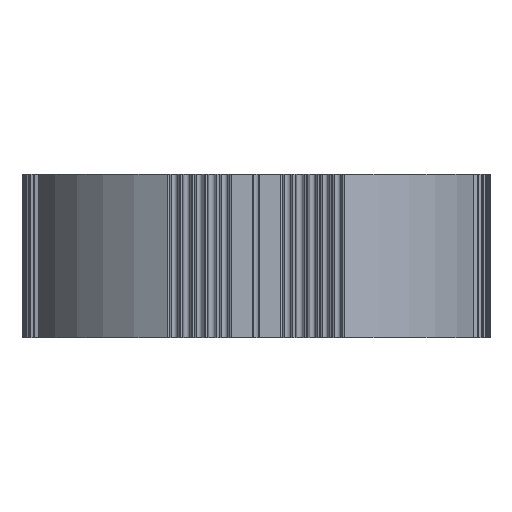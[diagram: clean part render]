
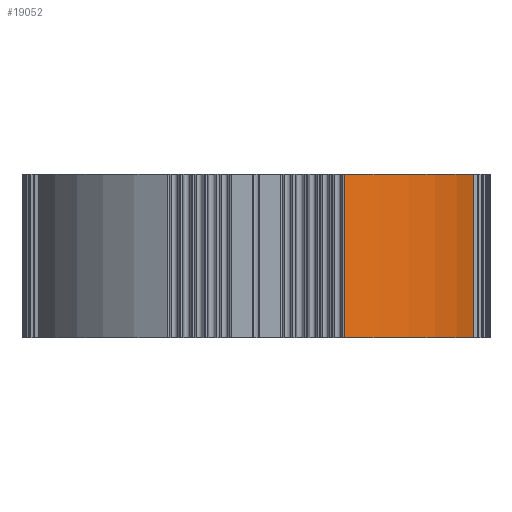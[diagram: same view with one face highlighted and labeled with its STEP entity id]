
A CAD part, front view. The second image highlights one B-rep face of the part: STEP entity #19052.
In plain terms, the highlighted cylindrical face has radius 100.3 mm (diameter 200.6 mm), a partial arc.
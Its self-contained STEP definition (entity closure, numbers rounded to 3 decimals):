
#1109 = AXIS2_PLACEMENT_3D ( 'NONE', #40167, #14815, #44396 ) ;
#4655 = VERTEX_POINT ( 'NONE', #32184 ) ;
#5301 = VECTOR ( 'NONE', #42810, 1000. ) ;
#5854 = AXIS2_PLACEMENT_3D ( 'NONE', #9233, #38873, #13500 ) ;
#6104 = ORIENTED_EDGE ( 'NONE', *, *, #19752, .T. ) ;
#6232 = EDGE_LOOP ( 'NONE', ( #28231, #9239, #53967, #6104 ) ) ;
#6381 = CARTESIAN_POINT ( 'NONE',  ( 37.538, -93.607, 68.5 ) ) ;
#6839 = FACE_OUTER_BOUND ( 'NONE', #6232, .T. ) ;
#9233 = CARTESIAN_POINT ( 'NONE',  ( -0.339, -0.734, -1.7 ) ) ;
#9239 = ORIENTED_EDGE ( 'NONE', *, *, #37796, .F. ) ;
#13217 = EDGE_CURVE ( 'NONE', #49757, #49704, #43683, .T. ) ;
#13500 = DIRECTION ( 'NONE',  ( -1., 0., 0. ) ) ;
#14815 = DIRECTION ( 'NONE',  ( 0., 0., 1. ) ) ;
#16282 = AXIS2_PLACEMENT_3D ( 'NONE', #35704, #27197, #52499 ) ;
#17019 = CARTESIAN_POINT ( 'NONE',  ( 92.97, -37.524, -1.7 ) ) ;
#19052 = ADVANCED_FACE ( 'NONE', ( #6839 ), #46496, .T. ) ;
#19752 = EDGE_CURVE ( 'NONE', #49704, #4655, #47643, .T. ) ;
#25688 = CARTESIAN_POINT ( 'NONE',  ( 37.538, -93.607, -1.7 ) ) ;
#27197 = DIRECTION ( 'NONE',  ( 0., 0., 1. ) ) ;
#28231 = ORIENTED_EDGE ( 'NONE', *, *, #28818, .F. ) ;
#28818 = EDGE_CURVE ( 'NONE', #37088, #4655, #33514, .T. ) ;
#32184 = CARTESIAN_POINT ( 'NONE',  ( 92.97, -37.524, 68.5 ) ) ;
#33514 = CIRCLE ( 'NONE', #1109, 100.3 ) ;
#35704 = CARTESIAN_POINT ( 'NONE',  ( -0.339, -0.734, -1.7 ) ) ;
#37088 = VERTEX_POINT ( 'NONE', #6381 ) ;
#37796 = EDGE_CURVE ( 'NONE', #49757, #37088, #54747, .T. ) ;
#38587 = CARTESIAN_POINT ( 'NONE',  ( 92.97, -37.524, -1.7 ) ) ;
#38873 = DIRECTION ( 'NONE',  ( 0., 0., 1. ) ) ;
#40167 = CARTESIAN_POINT ( 'NONE',  ( -0.339, -0.734, 68.5 ) ) ;
#40861 = VECTOR ( 'NONE', #54740, 1000. ) ;
#42810 = DIRECTION ( 'NONE',  ( 0., 0., 1. ) ) ;
#43683 = CIRCLE ( 'NONE', #5854, 100.3 ) ;
#44396 = DIRECTION ( 'NONE',  ( -1., 0., 0. ) ) ;
#46496 = CYLINDRICAL_SURFACE ( 'NONE', #16282, 100.3 ) ;
#47643 = LINE ( 'NONE', #38587, #5301 ) ;
#49704 = VERTEX_POINT ( 'NONE', #17019 ) ;
#49757 = VERTEX_POINT ( 'NONE', #25688 ) ;
#50512 = CARTESIAN_POINT ( 'NONE',  ( 37.538, -93.607, -1.7 ) ) ;
#52499 = DIRECTION ( 'NONE',  ( 1., 0., 0. ) ) ;
#53967 = ORIENTED_EDGE ( 'NONE', *, *, #13217, .T. ) ;
#54740 = DIRECTION ( 'NONE',  ( 0., 0., 1. ) ) ;
#54747 = LINE ( 'NONE', #50512, #40861 ) ;
